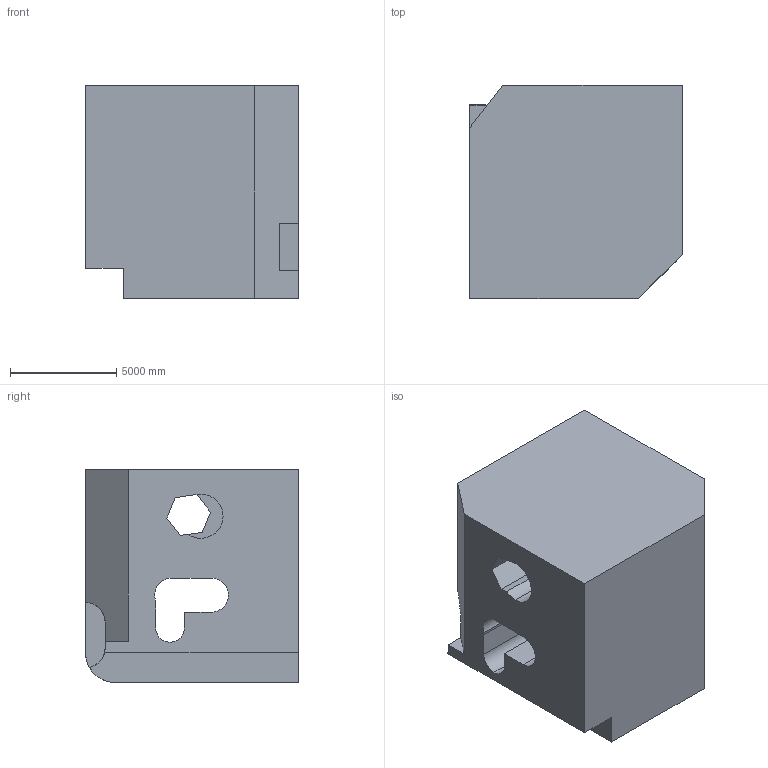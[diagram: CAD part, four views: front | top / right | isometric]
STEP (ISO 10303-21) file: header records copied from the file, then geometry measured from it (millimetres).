
FILE_DESCRIPTION (( 'STEP AP203' ), '1' );
FILE_NAME ('905.STEP', '2022-08-04T16:12:40', ( 'user' ), ( '' ), 'SwSTEP 2.0', 'SolidWorks 2021', '' );
FILE_SCHEMA (( 'CONFIG_CONTROL_DESIGN' ));
Length unit declared in the file: centimetre
Products named in the file (1): 905
Bounding box: 10000 x 10000 x 10000 mm (x, y, z)
Volume: 830467211274.5 mm3; surface area: 729561059.3 mm2
Topology: 1 solids, 1 shells, 40 faces, 113 edges, 75 vertices
Faces by surface type: plane 29, cylinder 11
Entity records: 1377 total; most frequent: CARTESIAN_POINT 232, ORIENTED_EDGE 226, DIRECTION 217, EDGE_CURVE 113, VECTOR 89, LINE 89, VERTEX_POINT 75, AXIS2_PLACEMENT_3D 64
